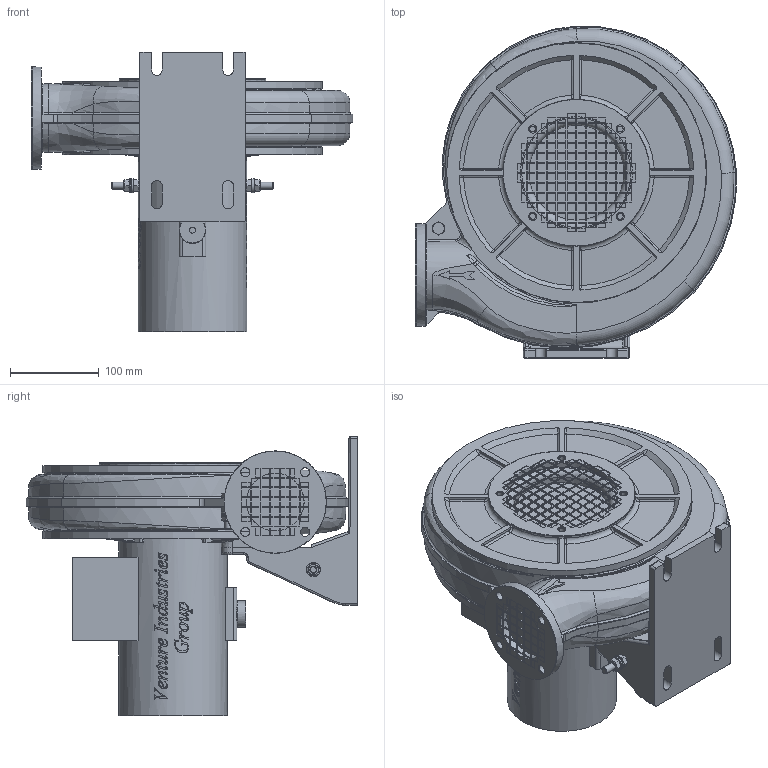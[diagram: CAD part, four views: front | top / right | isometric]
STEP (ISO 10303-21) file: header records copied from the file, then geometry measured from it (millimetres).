
FILE_DESCRIPTION(/* description */ (''),/* implementation_level */ '2;1');
FILE_NAME(/* name */ 'E:\Mariusz\Modele uproszczone\EBA\EBA 25\EBA_X_25X LG270 45519000\EBA_X_25X LG270 45519000.stp',/* time_stamp */ '2020-01-28T15:47:31+01:00',/* author */ ('M.Janczarek'),/* organization */ (''),/* preprocessor_version */ 'ST-DEVELOPER v16.13',/* originating_system */ 'Autodesk Inventor 2018',/* authorisation */ '');
FILE_SCHEMA (('AUTOMOTIVE_DESIGN { 1 0 10303 214 3 1 1 }'));
Products named in the file (1): EBA_X_25X LG270 45519000
Bounding box: 361 x 373 x 314.2 mm (x, y, z)
Volume: 10331429.8 mm3; surface area: 541163.8 mm2
Topology: 1 solids, 1 shells, 2421 faces, 6612 edges, 4220 vertices
Faces by surface type: plane 1103, bspline 808, cylinder 290, torus 95, cone 74, sphere 51
Full cylindrical faces by diameter (mm): 6.647 x5, 8 x5, 8.4 x4, 9.2 x4, 10 x4, 10.3 x4, 11.4 x3, 15 x1, 15.2 x1, 16 x5, 30 x1, 65 x1, 115 x2, 122.4 x1, 126 x1, 165 x1, 292 x2
Entity records: 95369 total; most frequent: CARTESIAN_POINT 38771, ORIENTED_EDGE 12940, DIRECTION 9439, EDGE_CURVE 6470, VERTEX_POINT 4184, LINE 3627, VECTOR 3627, AXIS2_PLACEMENT_3D 2906
